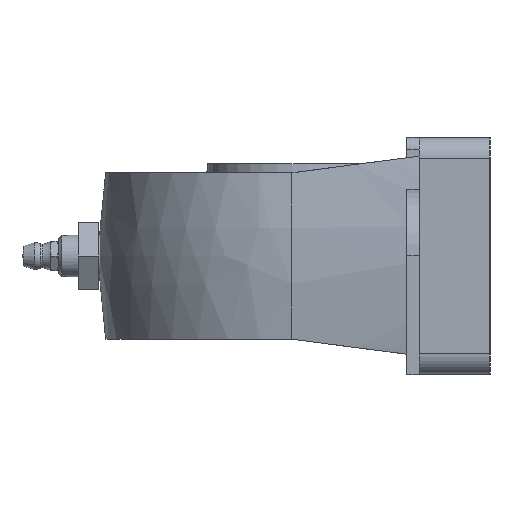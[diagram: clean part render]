
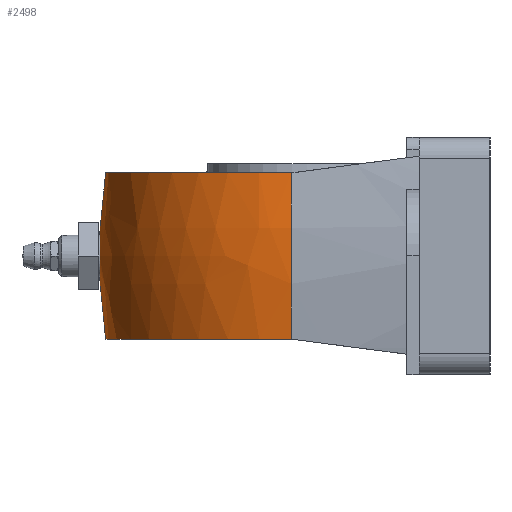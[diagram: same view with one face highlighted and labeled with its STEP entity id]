
A CAD part, left-side view. The second image highlights one B-rep face of the part: STEP entity #2498.
In plain terms, the highlighted free-form (B-spline) face has degree [2, 2] with [3, 5] control points.
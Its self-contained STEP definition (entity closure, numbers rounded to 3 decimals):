
#153=CARTESIAN_POINT('',(0.,46.33,4.188));
#154=VERTEX_POINT('',#153);
#155=CARTESIAN_POINT('',(0.,46.33,4.188));
#156=CARTESIAN_POINT('',(-0.015,46.33,4.188));
#157=CARTESIAN_POINT('',(-0.03,46.33,4.188));
#158=CARTESIAN_POINT('',(-0.083,46.33,4.187));
#159=CARTESIAN_POINT('',(-0.122,46.33,4.186));
#160=CARTESIAN_POINT('',(-0.227,46.33,4.182));
#161=CARTESIAN_POINT('',(-0.294,46.329,4.178));
#162=CARTESIAN_POINT('',(-0.6,46.328,4.152));
#163=CARTESIAN_POINT('',(-0.837,46.325,4.111));
#164=CARTESIAN_POINT('',(-1.525,46.315,3.929));
#165=CARTESIAN_POINT('',(-1.958,46.305,3.732));
#166=CARTESIAN_POINT('',(-2.777,46.279,3.177));
#167=CARTESIAN_POINT('',(-3.149,46.263,2.809));
#168=CARTESIAN_POINT('',(-3.757,46.235,1.93));
#169=CARTESIAN_POINT('',(-3.978,46.222,1.42));
#170=CARTESIAN_POINT('',(-4.208,46.21,0.354));
#171=CARTESIAN_POINT('',(-4.218,46.209,-0.191));
#172=CARTESIAN_POINT('',(-4.038,46.219,-1.218));
#173=CARTESIAN_POINT('',(-3.863,46.229,-1.694));
#174=CARTESIAN_POINT('',(-3.371,46.253,-2.528));
#175=CARTESIAN_POINT('',(-3.07,46.267,-2.886));
#176=CARTESIAN_POINT('',(-2.402,46.291,-3.456));
#177=CARTESIAN_POINT('',(-2.049,46.302,-3.676));
#178=CARTESIAN_POINT('',(-1.408,46.317,-3.955));
#179=CARTESIAN_POINT('',(-1.135,46.322,-4.041));
#180=CARTESIAN_POINT('',(-0.678,46.327,-4.137));
#181=CARTESIAN_POINT('',(-0.498,46.328,-4.162));
#182=CARTESIAN_POINT('',(-0.258,46.329,-4.18));
#183=CARTESIAN_POINT('',(-0.198,46.33,-4.184));
#184=CARTESIAN_POINT('',(-0.102,46.33,-4.187));
#185=CARTESIAN_POINT('',(-0.065,46.33,-4.188));
#186=CARTESIAN_POINT('',(0.006,46.33,-4.188));
#187=CARTESIAN_POINT('',(0.039,46.33,-4.188));
#188=CARTESIAN_POINT('',(0.116,46.33,-4.187));
#189=CARTESIAN_POINT('',(0.159,46.33,-4.185));
#190=CARTESIAN_POINT('',(0.291,46.329,-4.179));
#191=CARTESIAN_POINT('',(0.379,46.329,-4.172));
#192=CARTESIAN_POINT('',(0.963,46.325,-4.106));
#193=CARTESIAN_POINT('',(1.446,46.317,-3.962));
#194=CARTESIAN_POINT('',(2.284,46.295,-3.538));
#195=CARTESIAN_POINT('',(2.643,46.283,-3.279));
#196=CARTESIAN_POINT('',(3.339,46.255,-2.585));
#197=CARTESIAN_POINT('',(3.646,46.24,-2.131));
#198=CARTESIAN_POINT('',(4.073,46.217,-1.122));
#199=CARTESIAN_POINT('',(4.185,46.211,-0.574));
#200=CARTESIAN_POINT('',(4.19,46.21,0.5));
#201=CARTESIAN_POINT('',(4.096,46.216,1.016));
#202=CARTESIAN_POINT('',(3.736,46.235,1.953));
#203=CARTESIAN_POINT('',(3.486,46.248,2.371));
#204=CARTESIAN_POINT('',(2.882,46.274,3.07));
#205=CARTESIAN_POINT('',(2.544,46.287,3.356));
#206=CARTESIAN_POINT('',(1.846,46.307,3.778));
#207=CARTESIAN_POINT('',(1.5,46.315,3.928));
#208=CARTESIAN_POINT('',(0.97,46.324,4.078));
#209=CARTESIAN_POINT('',(0.799,46.326,4.115));
#210=CARTESIAN_POINT('',(0.503,46.328,4.16));
#211=CARTESIAN_POINT('',(0.378,46.329,4.173));
#212=CARTESIAN_POINT('',(0.204,46.33,4.183));
#213=CARTESIAN_POINT('',(0.154,46.33,4.185));
#214=CARTESIAN_POINT('',(0.069,46.33,4.188));
#215=CARTESIAN_POINT('',(0.035,46.33,4.188));
#216=CARTESIAN_POINT('',(0.,46.33,4.188));
#217=B_SPLINE_CURVE_WITH_KNOTS('',3,(#155,#156,#157,#158,#159,#160,#161,#162,#163,#164,#165,#166,#167,#168,#169,#170,#171,#172,#173,#174,#175,#176,#177,#178,#179,#180,#181,#182,#183,#184,#185,#186,#187,#188,#189,#190,#191,#192,#193,#194,#195,#196,#197,#198,#199,#200,#201,#202,#203,#204,#205,#206,#207,#208,#209,#210,#211,#212,#213,#214,#215,#216),.UNSPECIFIED.,.T.,.U.,(4,2,2,2,2,2,2,2,2,2,2,2,2,2,2,2,2,2,2,2,2,2,2,2,2,2,2,2,2,2,4),(-2.638,-2.633,-2.622,-2.602,-2.53,-2.388,-2.233,-2.067,-1.905,-1.754,-1.615,-1.491,-1.405,-1.351,-1.333,-1.322,-1.312,-1.299,-1.272,-1.122,-0.99,-0.827,-0.661,-0.505,-0.36,-0.228,-0.115,-0.063,-0.025,-0.01,0.0),.UNSPECIFIED.);
#218=EDGE_CURVE('',#154,#154,#217,.T.);
#2211=CARTESIAN_POINT('',(-44.789,0.146,20.));
#2212=VERTEX_POINT('',#2211);
#2219=CARTESIAN_POINT('',(-44.789,0.146,-20.0));
#2220=VERTEX_POINT('',#2219);
#2221=CARTESIAN_POINT('',(78.6,-0.256,0.));
#2222=DIRECTION('',(-0.003,-1.,0.0));
#2223=DIRECTION('',(-0.981,0.003,-0.192));
#2224=AXIS2_PLACEMENT_3D('',#2221,#2222,#2223);
#2225=CIRCLE('',#2224,125.);
#2226=EDGE_CURVE('',#2212,#2220,#2225,.T.);
#2296=CARTESIAN_POINT('',(44.789,0.146,-20.0));
#2297=VERTEX_POINT('',#2296);
#2304=CARTESIAN_POINT('',(44.789,0.146,20.));
#2305=VERTEX_POINT('',#2304);
#2306=CARTESIAN_POINT('',(-78.6,-0.256,0.));
#2307=DIRECTION('',(-0.003,1.,0.));
#2308=DIRECTION('',(0.981,0.003,-0.192));
#2309=AXIS2_PLACEMENT_3D('',#2306,#2307,#2308);
#2310=CIRCLE('',#2309,125.);
#2311=EDGE_CURVE('',#2305,#2297,#2310,.T.);
#2401=CARTESIAN_POINT('',(0.0,0.,-20.0));
#2402=DIRECTION('',(0.0,0.0,1.0));
#2403=DIRECTION('',(-1.0,0.0,0.0));
#2404=AXIS2_PLACEMENT_3D('',#2401,#2402,#2403);
#2405=CIRCLE('',#2404,44.79);
#2406=EDGE_CURVE('',#2297,#2220,#2405,.T.);
#2440=CARTESIAN_POINT('',(0.0,0.,20.));
#2441=DIRECTION('',(0.0,0.0,-1.0));
#2442=DIRECTION('',(-1.0,0.0,0.0));
#2443=AXIS2_PLACEMENT_3D('',#2440,#2441,#2442);
#2444=CIRCLE('',#2443,44.79);
#2445=EDGE_CURVE('',#2212,#2305,#2444,.T.);
#2466=CARTESIAN_POINT('',(44.789,0.141,20.));
#2467=CARTESIAN_POINT('',(48.031,0.151,0.));
#2468=CARTESIAN_POINT('',(44.789,0.141,-20.));
#2469=CARTESIAN_POINT('',(44.649,44.79,20.));
#2470=CARTESIAN_POINT('',(47.88,48.031,0.));
#2471=CARTESIAN_POINT('',(44.649,44.79,-20.));
#2472=CARTESIAN_POINT('',(0.,44.79,20.));
#2473=CARTESIAN_POINT('',(0.,48.031,0.));
#2474=CARTESIAN_POINT('',(0.,44.79,-20.));
#2475=CARTESIAN_POINT('',(-44.649,44.79,20.));
#2476=CARTESIAN_POINT('',(-47.88,48.031,0.));
#2477=CARTESIAN_POINT('',(-44.649,44.79,-20.));
#2478=CARTESIAN_POINT('',(-44.789,0.141,20.));
#2479=CARTESIAN_POINT('',(-48.031,0.151,0.));
#2480=CARTESIAN_POINT('',(-44.789,0.141,-20.));
#2488=(BOUNDED_SURFACE()B_SPLINE_SURFACE(2,2,((#2466,#2469,#2472,#2475,#2478),(#2467,#2470,#2473,#2476,#2479),(#2468,#2471,#2474,#2477,#2480)),.UNSPECIFIED.,.F.,.F.,.U.)B_SPLINE_SURFACE_WITH_KNOTS((3,3),(3,2,3),(-0.161,0.161),(0.0,1.568,3.135),.UNSPECIFIED.)GEOMETRIC_REPRESENTATION_ITEM()RATIONAL_B_SPLINE_SURFACE(((1.0,0.708,1.0,0.708,1.0),(0.987,0.699,0.987,0.699,0.987),(1.0,0.708,1.0,0.708,1.0)))REPRESENTATION_ITEM('')SURFACE());
#2489=ORIENTED_EDGE('',*,*,#218,.T.);
#2490=EDGE_LOOP('',(#2489));
#2491=FACE_OUTER_BOUND('',#2490,.T.);
#2492=ORIENTED_EDGE('',*,*,#2406,.T.);
#2493=ORIENTED_EDGE('',*,*,#2226,.F.);
#2494=ORIENTED_EDGE('',*,*,#2445,.T.);
#2495=ORIENTED_EDGE('',*,*,#2311,.T.);
#2496=EDGE_LOOP('',(#2492,#2493,#2494,#2495));
#2497=FACE_BOUND('',#2496,.T.);
#2498=ADVANCED_FACE('',(#2491,#2497),#2488,.T.);
